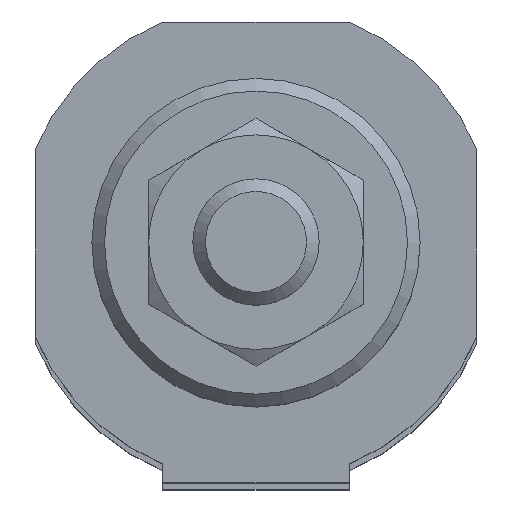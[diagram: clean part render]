
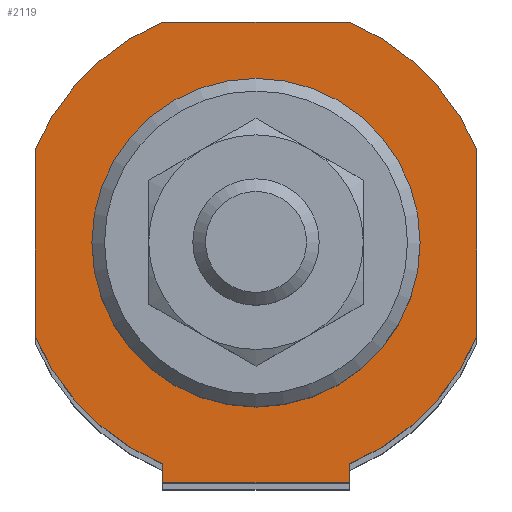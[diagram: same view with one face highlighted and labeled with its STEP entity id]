
A CAD part, top view. The second image highlights one B-rep face of the part: STEP entity #2119.
In plain terms, the highlighted planar face has unit normal (0, 0, 1).
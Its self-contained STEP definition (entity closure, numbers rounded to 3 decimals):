
#1123=CARTESIAN_POINT('',(7.399,-19.0,348.));
#1124=VERTEX_POINT('',#1123);
#1125=CARTESIAN_POINT('',(-7.399,-19.0,348.));
#1126=VERTEX_POINT('',#1125);
#1127=CARTESIAN_POINT('',(7.399,-19.0,348.));
#1128=DIRECTION('',(-1.0,0.0,0.0));
#1129=VECTOR('',#1128,14.799);
#1130=LINE('',#1127,#1129);
#1131=EDGE_CURVE('',#1124,#1126,#1130,.T.);
#1545=CARTESIAN_POINT('',(-7.399,-17.5,348.));
#1546=VERTEX_POINT('',#1545);
#1560=CARTESIAN_POINT('',(-7.399,-17.5,348.));
#1561=DIRECTION('',(0.0,-1.0,0.0));
#1562=VECTOR('',#1561,1.5);
#1563=LINE('',#1560,#1562);
#1564=EDGE_CURVE('',#1546,#1126,#1563,.T.);
#1576=CARTESIAN_POINT('',(7.399,-17.5,348.));
#1577=VERTEX_POINT('',#1576);
#1584=CARTESIAN_POINT('',(7.399,-17.5,348.));
#1585=DIRECTION('',(0.0,-1.0,0.0));
#1586=VECTOR('',#1585,1.5);
#1587=LINE('',#1584,#1586);
#1588=EDGE_CURVE('',#1577,#1124,#1587,.T.);
#1801=CARTESIAN_POINT('',(13.0,0.,348.));
#1802=VERTEX_POINT('',#1801);
#1803=CARTESIAN_POINT('',(0.,0.,348.));
#1804=DIRECTION('',(0.0,0.0,-1.0));
#1805=DIRECTION('',(-1.0,0.0,0.0));
#1806=AXIS2_PLACEMENT_3D('',#1803,#1804,#1805);
#1807=CIRCLE('',#1806,13.0);
#1808=EDGE_CURVE('',#1802,#1802,#1807,.T.);
#2013=CARTESIAN_POINT('',(-17.5,-7.399,348.));
#2014=VERTEX_POINT('',#2013);
#2015=CARTESIAN_POINT('',(-17.5,7.399,348.));
#2016=VERTEX_POINT('',#2015);
#2017=CARTESIAN_POINT('',(-17.5,-7.399,348.));
#2018=DIRECTION('',(0.0,1.0,0.0));
#2019=VECTOR('',#2018,14.799);
#2020=LINE('',#2017,#2019);
#2021=EDGE_CURVE('',#2014,#2016,#2020,.T.);
#2045=CARTESIAN_POINT('',(-7.399,17.5,348.));
#2046=VERTEX_POINT('',#2045);
#2047=CARTESIAN_POINT('',(0.0,0.0,348.));
#2048=DIRECTION('',(0.0,0.0,-1.0));
#2049=DIRECTION('',(-0.389,0.921,0.0));
#2050=AXIS2_PLACEMENT_3D('',#2047,#2048,#2049);
#2051=CIRCLE('',#2050,19.0);
#2052=EDGE_CURVE('',#2016,#2046,#2051,.T.);
#2065=CARTESIAN_POINT('',(-11.374,11.374,348.));
#2066=DIRECTION('',(0.0,0.0,1.0));
#2067=DIRECTION('',(1.0,0.0,0.0));
#2068=AXIS2_PLACEMENT_3D('',#2065,#2066,#2067);
#2069=PLANE('',#2068);
#2070=CARTESIAN_POINT('',(7.399,17.5,348.));
#2071=VERTEX_POINT('',#2070);
#2072=CARTESIAN_POINT('',(-7.399,17.5,348.));
#2073=DIRECTION('',(1.0,0.0,0.0));
#2074=VECTOR('',#2073,14.799);
#2075=LINE('',#2072,#2074);
#2076=EDGE_CURVE('',#2046,#2071,#2075,.T.);
#2077=ORIENTED_EDGE('',*,*,#2076,.F.);
#2078=ORIENTED_EDGE('',*,*,#2052,.F.);
#2079=ORIENTED_EDGE('',*,*,#2021,.F.);
#2080=CARTESIAN_POINT('',(0.0,0.0,348.));
#2081=DIRECTION('',(0.0,0.0,-1.0));
#2082=DIRECTION('',(-0.921,-0.389,0.0));
#2083=AXIS2_PLACEMENT_3D('',#2080,#2081,#2082);
#2084=CIRCLE('',#2083,19.0);
#2085=EDGE_CURVE('',#1546,#2014,#2084,.T.);
#2086=ORIENTED_EDGE('',*,*,#2085,.F.);
#2087=ORIENTED_EDGE('',*,*,#1564,.T.);
#2088=ORIENTED_EDGE('',*,*,#1131,.F.);
#2089=ORIENTED_EDGE('',*,*,#1588,.F.);
#2090=CARTESIAN_POINT('',(17.5,-7.399,348.));
#2091=VERTEX_POINT('',#2090);
#2092=CARTESIAN_POINT('',(0.0,0.0,348.));
#2093=DIRECTION('',(0.0,0.0,-1.0));
#2094=DIRECTION('',(0.389,-0.921,0.0));
#2095=AXIS2_PLACEMENT_3D('',#2092,#2093,#2094);
#2096=CIRCLE('',#2095,19.0);
#2097=EDGE_CURVE('',#2091,#1577,#2096,.T.);
#2098=ORIENTED_EDGE('',*,*,#2097,.F.);
#2099=CARTESIAN_POINT('',(17.5,7.399,348.));
#2100=VERTEX_POINT('',#2099);
#2101=CARTESIAN_POINT('',(17.5,7.399,348.));
#2102=DIRECTION('',(0.0,-1.0,0.0));
#2103=VECTOR('',#2102,14.799);
#2104=LINE('',#2101,#2103);
#2105=EDGE_CURVE('',#2100,#2091,#2104,.T.);
#2106=ORIENTED_EDGE('',*,*,#2105,.F.);
#2107=CARTESIAN_POINT('',(0.0,0.0,348.));
#2108=DIRECTION('',(0.0,0.0,-1.0));
#2109=DIRECTION('',(0.921,0.389,0.0));
#2110=AXIS2_PLACEMENT_3D('',#2107,#2108,#2109);
#2111=CIRCLE('',#2110,19.0);
#2112=EDGE_CURVE('',#2071,#2100,#2111,.T.);
#2113=ORIENTED_EDGE('',*,*,#2112,.F.);
#2114=EDGE_LOOP('',(#2077,#2078,#2079,#2086,#2087,#2088,#2089,#2098,#2106,#2113));
#2115=FACE_OUTER_BOUND('',#2114,.T.);
#2116=ORIENTED_EDGE('',*,*,#1808,.T.);
#2117=EDGE_LOOP('',(#2116));
#2118=FACE_BOUND('',#2117,.T.);
#2119=ADVANCED_FACE('',(#2115,#2118),#2069,.T.);
